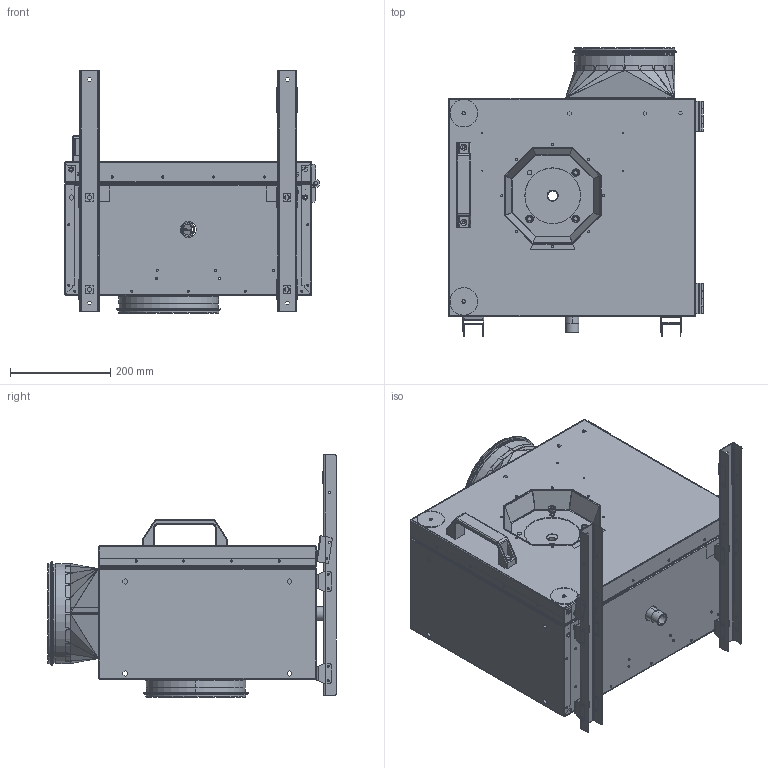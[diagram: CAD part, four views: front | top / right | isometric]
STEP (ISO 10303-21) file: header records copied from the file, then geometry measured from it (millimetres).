
FILE_DESCRIPTION (( 'STEP AP203' ), '1' );
FILE_NAME ('143071-00_MPS225EC30.STEP', '2018-03-05T07:16:34', ( '' ), ( '' ), 'SwSTEP 2.0', 'SolidWorks 2012', '' );
FILE_SCHEMA (( 'CONFIG_CONTROL_DESIGN' ));
Length unit declared in the file: millimetre
Products named in the file (1): 143071-00_MPS225EC30
Bounding box: 507.1 x 574.18 x 483 mm (x, y, z)
Surface area: 3789284.2 mm2 (no closed solid volume)
Topology: 0 solids, 144 shells, 1539 faces, 7774 edges, 6135 vertices
Faces by surface type: cylinder 779, plane 622, cone 52, bspline 48, torus 38
Entity records: 84739 total; most frequent: CARTESIAN_POINT 23043, DIRECTION 13021, ORIENTED_EDGE 10636, EDGE_CURVE 7774, VERTEX_POINT 6135, LINE 4429, VECTOR 4429, AXIS2_PLACEMENT_3D 4296
